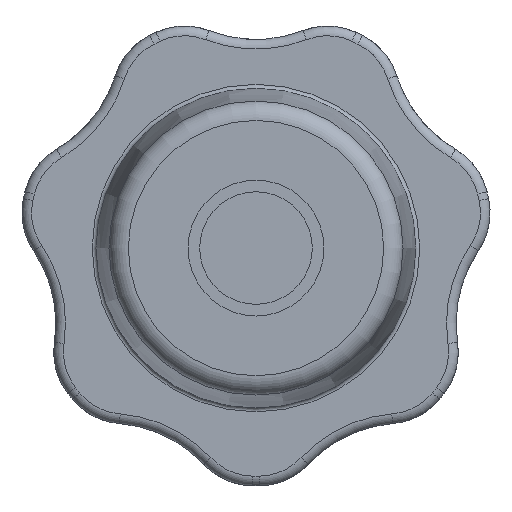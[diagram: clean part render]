
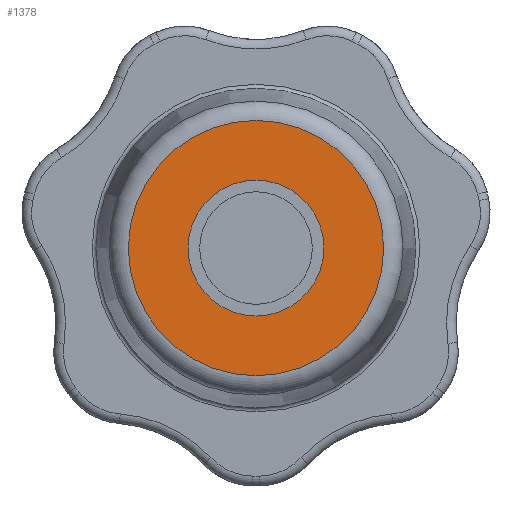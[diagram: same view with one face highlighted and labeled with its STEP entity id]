
A CAD part, front view. The second image highlights one B-rep face of the part: STEP entity #1378.
In plain terms, the highlighted planar face has unit normal (0, -1, 0).
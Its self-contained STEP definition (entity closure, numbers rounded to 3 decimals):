
#177=PLANE('',#1587);
#185=FACE_BOUND('',#379,.T.);
#277=FACE_OUTER_BOUND('',#378,.T.);
#378=EDGE_LOOP('',(#1247));
#379=EDGE_LOOP('',(#1248));
#385=CIRCLE('',#1389,3.5);
#516=CIRCLE('',#1586,6.576);
#520=VERTEX_POINT('',#2044);
#638=VERTEX_POINT('',#3053);
#642=EDGE_CURVE('',#520,#520,#385,.T.);
#843=EDGE_CURVE('',#638,#638,#516,.T.);
#1247=ORIENTED_EDGE('',*,*,#843,.F.);
#1248=ORIENTED_EDGE('',*,*,#642,.T.);
#1378=ADVANCED_FACE('',(#277,#185),#177,.T.);
#1389=AXIS2_PLACEMENT_3D('',#2045,#1604,#1605);
#1586=AXIS2_PLACEMENT_3D('',#3054,#2025,#2026);
#1587=AXIS2_PLACEMENT_3D('',#3055,#2027,#2028);
#1604=DIRECTION('center_axis',(0.,1.,0.));
#1605=DIRECTION('ref_axis',(-1.,0.,0.));
#2025=DIRECTION('center_axis',(0.,1.,0.));
#2026=DIRECTION('ref_axis',(1.,0.,0.));
#2027=DIRECTION('center_axis',(0.,-1.,0.));
#2028=DIRECTION('ref_axis',(0.,0.,-1.));
#2044=CARTESIAN_POINT('',(3.5,-9.5,0.));
#2045=CARTESIAN_POINT('Origin',(0.,-9.5,0.));
#3053=CARTESIAN_POINT('',(-6.576,-9.5,0.));
#3054=CARTESIAN_POINT('Origin',(0.,-9.5,0.));
#3055=CARTESIAN_POINT('Origin',(-3.75,-9.5,0.));
